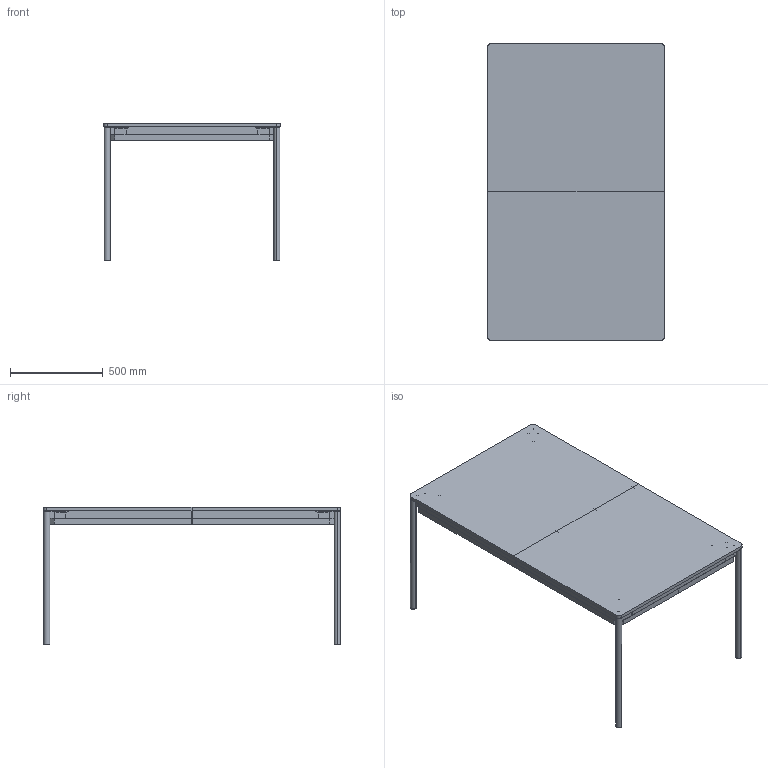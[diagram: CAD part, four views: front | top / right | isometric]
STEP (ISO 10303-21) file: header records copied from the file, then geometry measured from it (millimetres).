
FILE_DESCRIPTION(/* description */ (''),/* implementation_level */ '2;1');
FILE_NAME(/* name */ 'Pieza Dining table (95 x 160 : 205 cm)',/* time_stamp */ '2020-02-25T08:27:33+01:00',/* author */ (''),/* organization */ (''),/* preprocessor_version */ 'ST-DEVELOPER v15',/* originating_system */ '',/* authorisation */ '');
FILE_SCHEMA (('AUTOMOTIVE_DESIGN'));
Length unit declared in the file: millimetre
Products named in the file (1): Document
Bounding box: 950 x 1600 x 740 mm (x, y, z)
Volume: 50693758.4 mm3; surface area: 7601920.7 mm2
Topology: 53 solids, 59 shells, 1330 faces, 3118 edges, 2060 vertices
Faces by surface type: bspline 750, plane 580
Entity records: 50403 total; most frequent: CARTESIAN_POINT 30817, ORIENTED_EDGE 6088, EDGE_CURVE 3118, VERTEX_POINT 2060, EDGE_LOOP 1694, B_SPLINE_CURVE_WITH_KNOTS 1656, ADVANCED_FACE 1330, FACE_OUTER_BOUND 1330
